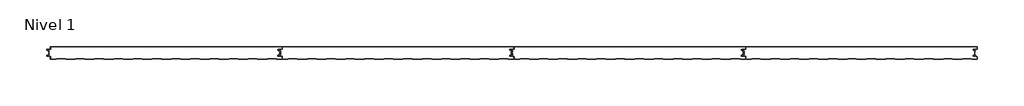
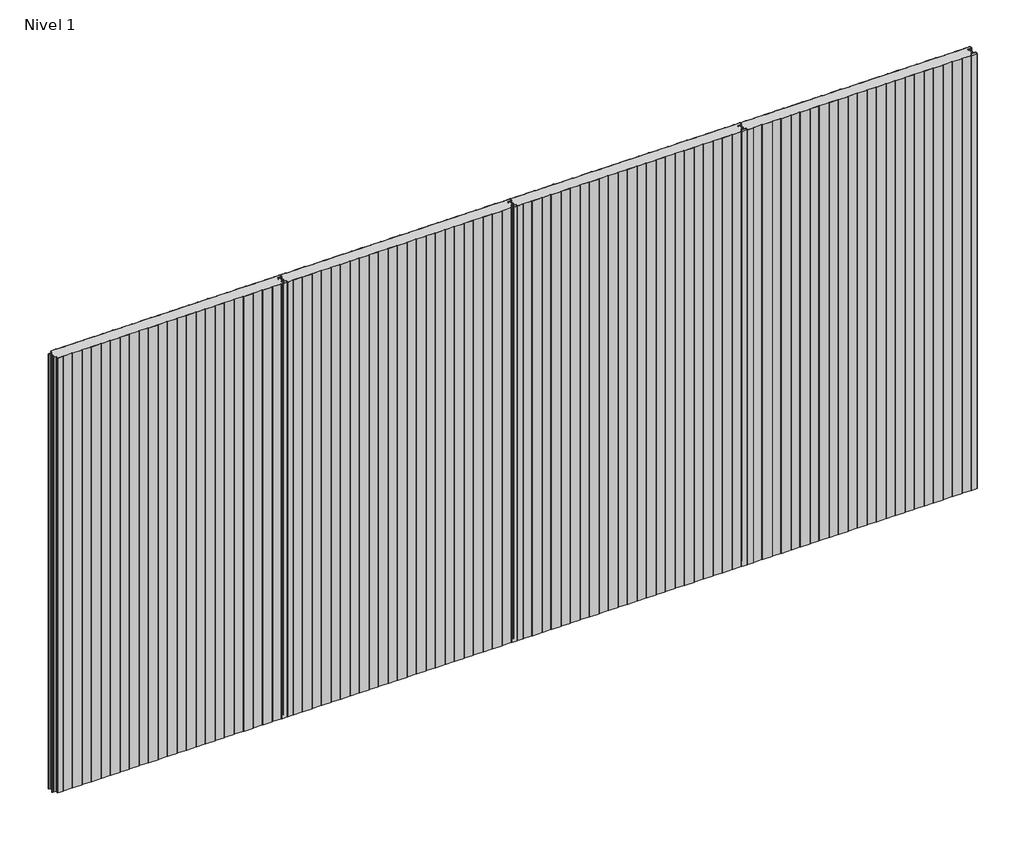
# One storey, incomplete: 4 plates.
"""IFC4 building model written with IfcOpenShell, lengths in millimetres."""

from ifc_helpers import new_model, si_unit, origin, place, context, project, spatial, transform, mapped, element, save
from components import plate_60_mm_28918404

model = new_model("IFC4")

# Units and contexts
model_context = context("Model", 3, world=origin())
ifc_project = project(units=[si_unit("LENGTHUNIT", "METRE", prefix="MILLI")], contexts=[model_context])

# Site, building, storey
site = spatial("IfcSite", under=ifc_project)
building = spatial("IfcBuilding", under=site)
storey = spatial("IfcBuildingStorey", under=building, Name="Nivel 1", Elevation=0.0)

# Plates
placement = place(None, origin())
plate_60_mm_shape = plate_60_mm_28918404(model_context)
element("IfcPlate", 1, ObjectType="HIANSA PANEL - H20.F06.007-ULTRA-PANEL FRIGORÍFICO - PANEL FRIGO - Panel de Muro Cortina : 60 mm", at=placement, inside=storey, context=model_context, shape_type="MappedRepresentation", body=[
    mapped(plate_60_mm_shape, transform((4818.1436702, 17636.5269276, 0.0), x_axis=(1.0, 0.0, 0.0), y_axis=(0.0, 1.0, 0.0), z_axis=(0.0, 0.0, 1.0))),
])
element("IfcPlate", 2, ObjectType="HIANSA PANEL - H20.F06.007-ULTRA-PANEL FRIGORÍFICO - PANEL FRIGO - Panel de Muro Cortina : 60 mm", at=placement, inside=storey, context=model_context, shape_type="MappedRepresentation", body=[
    mapped(plate_60_mm_shape, transform((5918.1436703, 17636.5269276, 0.0), x_axis=(1.0, 0.0, 0.0), y_axis=(0.0, 1.0, 0.0), z_axis=(0.0, 0.0, 1.0))),
])
element("IfcPlate", 3, ObjectType="HIANSA PANEL - H20.F06.007-ULTRA-PANEL FRIGORÍFICO - PANEL FRIGO - Panel de Muro Cortina : 60 mm", at=placement, inside=storey, context=model_context, shape_type="MappedRepresentation", body=[
    mapped(plate_60_mm_shape, transform((7018.1436703, 17636.5269276, 0.0), x_axis=(1.0, 0.0, 0.0), y_axis=(0.0, 1.0, 0.0), z_axis=(0.0, 0.0, 1.0))),
])
element("IfcPlate", 4, ObjectType="HIANSA PANEL - H20.F06.007-ULTRA-PANEL FRIGORÍFICO - PANEL FRIGO - Panel de Muro Cortina : 60 mm", at=placement, inside=storey, context=model_context, shape_type="MappedRepresentation", body=[
    mapped(plate_60_mm_shape, transform((8118.1436702, 17636.5269276, 0.0), x_axis=(1.0, 0.0, 0.0), y_axis=(0.0, 1.0, 0.0), z_axis=(0.0, 0.0, 1.0))),
])

save(model, "model.ifc")
